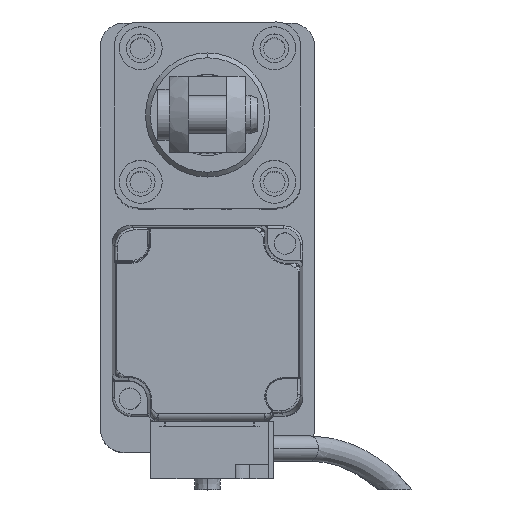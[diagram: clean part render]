
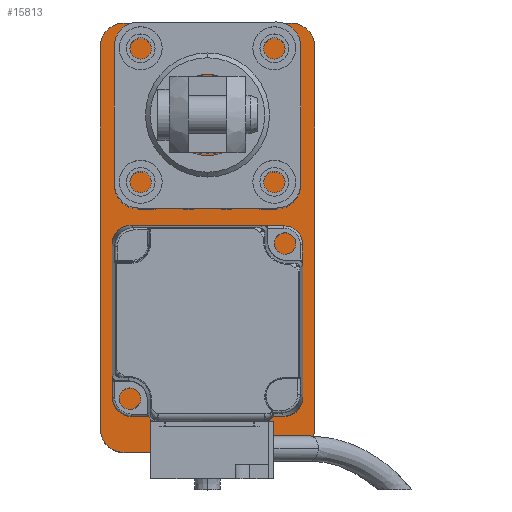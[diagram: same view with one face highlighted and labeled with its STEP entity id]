
A CAD part, top view. The second image highlights one B-rep face of the part: STEP entity #15813.
In plain terms, the highlighted planar face has unit normal (0, 0, 1).
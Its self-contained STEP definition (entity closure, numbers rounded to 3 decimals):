
#115 = CIRCLE ( 'NONE', #9012, 5. ) ;
#304 = CARTESIAN_POINT ( 'NONE',  ( -17.5, -45., 10. ) ) ;
#323 = VECTOR ( 'NONE', #6176, 1000. ) ;
#734 = CARTESIAN_POINT ( 'NONE',  ( -17.5, -40., 10. ) ) ;
#783 = VERTEX_POINT ( 'NONE', #6806 ) ;
#967 = DIRECTION ( 'NONE',  ( 1., 0., 0. ) ) ;
#2012 = VERTEX_POINT ( 'NONE', #304 ) ;
#2316 = CARTESIAN_POINT ( 'NONE',  ( 0., 0., 10. ) ) ;
#2427 = DIRECTION ( 'NONE',  ( 1., 0., 0. ) ) ;
#2905 = DIRECTION ( 'NONE',  ( 0., 0., 1. ) ) ;
#3464 = CARTESIAN_POINT ( 'NONE',  ( 22.5, -45., 10. ) ) ;
#3549 = EDGE_CURVE ( 'NONE', #4520, #2012, #26422, .T. ) ;
#3778 = LINE ( 'NONE', #17795, #17616 ) ;
#3853 = VECTOR ( 'NONE', #16891, 1000. ) ;
#3972 = EDGE_CURVE ( 'NONE', #29449, #4520, #20005, .T. ) ;
#4273 = ORIENTED_EDGE ( 'NONE', *, *, #15524, .T. ) ;
#4520 = VERTEX_POINT ( 'NONE', #4736 ) ;
#4736 = CARTESIAN_POINT ( 'NONE',  ( -22.5, -40., 10. ) ) ;
#4935 = EDGE_CURVE ( 'NONE', #17069, #783, #3778, .T. ) ;
#5466 = ORIENTED_EDGE ( 'NONE', *, *, #3549, .T. ) ;
#5527 = AXIS2_PLACEMENT_3D ( 'NONE', #2316, #7983, #2427 ) ;
#5876 = CARTESIAN_POINT ( 'NONE',  ( 22.5, -40., 10. ) ) ;
#6176 = DIRECTION ( 'NONE',  ( 1., 0., 0. ) ) ;
#6664 = CARTESIAN_POINT ( 'NONE',  ( 17.5, -45., 10. ) ) ;
#6806 = CARTESIAN_POINT ( 'NONE',  ( -17.5, 45., 10. ) ) ;
#7111 = DIRECTION ( 'NONE',  ( -1., 0., 0. ) ) ;
#7310 = EDGE_LOOP ( 'NONE', ( #32812, #4273, #20717, #28934, #25197, #5466, #22470, #26458 ) ) ;
#7855 = FACE_OUTER_BOUND ( 'NONE', #7310, .T. ) ;
#7916 = CARTESIAN_POINT ( 'NONE',  ( -17.5, 40., 10. ) ) ;
#7983 = DIRECTION ( 'NONE',  ( 0., 0., 1. ) ) ;
#8234 = CARTESIAN_POINT ( 'NONE',  ( -22.5, -45., 10. ) ) ;
#8412 = CIRCLE ( 'NONE', #13417, 5. ) ;
#9012 = AXIS2_PLACEMENT_3D ( 'NONE', #21559, #21678, #967 ) ;
#9052 = CIRCLE ( 'NONE', #16997, 5. ) ;
#9184 = CARTESIAN_POINT ( 'NONE',  ( 22.5, -45., 10. ) ) ;
#12286 = DIRECTION ( 'NONE',  ( 1., 0., 0. ) ) ;
#12300 = VECTOR ( 'NONE', #21557, 1000. ) ;
#12636 = CARTESIAN_POINT ( 'NONE',  ( 22.5, 40., 10. ) ) ;
#12757 = PLANE ( 'NONE',  #5527 ) ;
#13417 = AXIS2_PLACEMENT_3D ( 'NONE', #7916, #2905, #23714 ) ;
#14223 = EDGE_CURVE ( 'NONE', #25505, #27848, #9052, .T. ) ;
#14402 = LINE ( 'NONE', #9184, #3853 ) ;
#15524 = EDGE_CURVE ( 'NONE', #18822, #17069, #115, .T. ) ;
#15813 = ADVANCED_FACE ( 'NONE', ( #7855 ), #12757, .T. ) ;
#16409 = DIRECTION ( 'NONE',  ( 0., 0., 1. ) ) ;
#16891 = DIRECTION ( 'NONE',  ( 0., 1., 0. ) ) ;
#16997 = AXIS2_PLACEMENT_3D ( 'NONE', #22668, #27749, #12286 ) ;
#17069 = VERTEX_POINT ( 'NONE', #24703 ) ;
#17616 = VECTOR ( 'NONE', #7111, 1000. ) ;
#17795 = CARTESIAN_POINT ( 'NONE',  ( 22.5, 45., 10. ) ) ;
#18822 = VERTEX_POINT ( 'NONE', #12636 ) ;
#20005 = LINE ( 'NONE', #8234, #12300 ) ;
#20717 = ORIENTED_EDGE ( 'NONE', *, *, #4935, .T. ) ;
#21557 = DIRECTION ( 'NONE',  ( 0., -1., 0. ) ) ;
#21559 = CARTESIAN_POINT ( 'NONE',  ( 17.5, 40., 10. ) ) ;
#21678 = DIRECTION ( 'NONE',  ( 0., 0., 1. ) ) ;
#22470 = ORIENTED_EDGE ( 'NONE', *, *, #27158, .T. ) ;
#22668 = CARTESIAN_POINT ( 'NONE',  ( 17.5, -40., 10. ) ) ;
#23714 = DIRECTION ( 'NONE',  ( 1., 0., 0. ) ) ;
#24703 = CARTESIAN_POINT ( 'NONE',  ( 17.5, 45., 10. ) ) ;
#25197 = ORIENTED_EDGE ( 'NONE', *, *, #3972, .T. ) ;
#25505 = VERTEX_POINT ( 'NONE', #6664 ) ;
#26422 = CIRCLE ( 'NONE', #33037, 5. ) ;
#26458 = ORIENTED_EDGE ( 'NONE', *, *, #14223, .T. ) ;
#26736 = DIRECTION ( 'NONE',  ( 1., 0., 0. ) ) ;
#27158 = EDGE_CURVE ( 'NONE', #2012, #25505, #33546, .T. ) ;
#27749 = DIRECTION ( 'NONE',  ( 0., 0., 1. ) ) ;
#27848 = VERTEX_POINT ( 'NONE', #5876 ) ;
#28089 = EDGE_CURVE ( 'NONE', #783, #29449, #8412, .T. ) ;
#28934 = ORIENTED_EDGE ( 'NONE', *, *, #28089, .T. ) ;
#29449 = VERTEX_POINT ( 'NONE', #33457 ) ;
#30763 = EDGE_CURVE ( 'NONE', #27848, #18822, #14402, .T. ) ;
#32812 = ORIENTED_EDGE ( 'NONE', *, *, #30763, .T. ) ;
#33037 = AXIS2_PLACEMENT_3D ( 'NONE', #734, #16409, #26736 ) ;
#33457 = CARTESIAN_POINT ( 'NONE',  ( -22.5, 40., 10. ) ) ;
#33546 = LINE ( 'NONE', #3464, #323 ) ;
